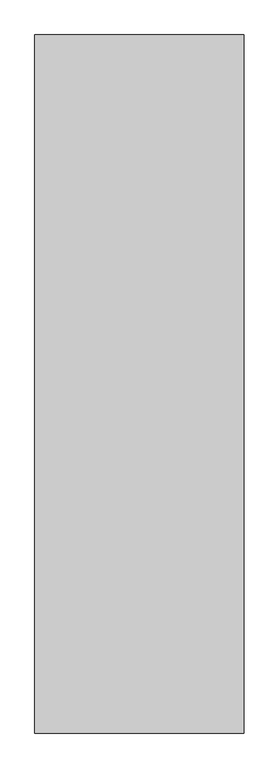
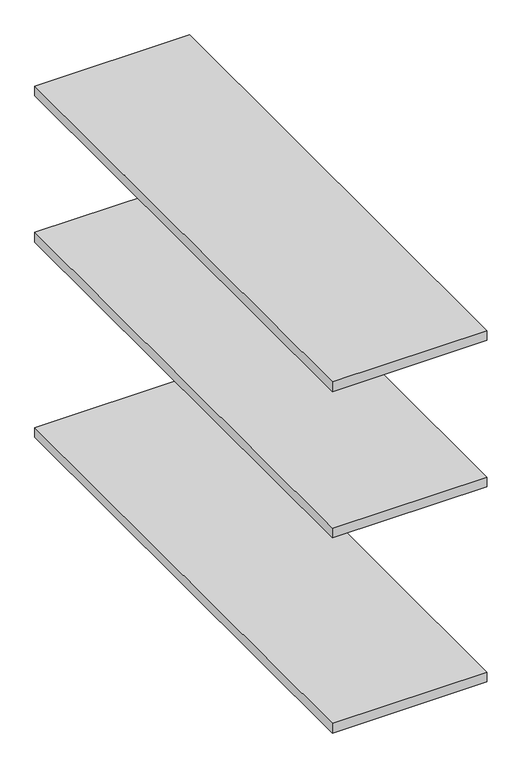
"""IFC4 building model written with IfcOpenShell, lengths in millimetres: proxy geometry, 香木隔板2 : 香木隔板2."""

from ifc_helpers import new_model, si_unit, frame, origin, place, context, project, spatial, polyline, outline, extrude, source, transform, mapped, element, save


def generic_models_bc6898c8(model_context):
    return source(origin(), model_context, "Body", "SweptSolid", [
        extrude(outline(polyline([(150.0, -500.0), (-150.0, -500.0), (-150.0, 500.0), (150.0, 500.0), (150.0, -500.0)])), frame((0.0, 0.0, 700.0), z_axis=(0.0, 0.0, 1.0), x_axis=(1.0, 0.0, 0.0)), (0.0, 0.0, 1.0), 20.0),
        extrude(outline(polyline([(150.0, -500.0), (-150.0, -500.0), (-150.0, 500.0), (150.0, 500.0), (150.0, -500.0)])), frame((0.0, 0.0, 1000.0), z_axis=(0.0, 0.0, 1.0), x_axis=(1.0, 0.0, 0.0)), (0.0, 0.0, 1.0), 20.0),
        extrude(outline(polyline([(150.0, -500.0), (-150.0, -500.0), (-150.0, 500.0), (150.0, 500.0), (150.0, -500.0)])), frame((0.0, 0.0, 300.0), z_axis=(0.0, 0.0, 1.0), x_axis=(1.0, 0.0, 0.0)), (0.0, 0.0, 1.0), 20.0),
    ])


if __name__ == "__main__":
    model = new_model("IFC4")
    model_context = context("Model", 3, world=origin())
    ifc_project = project(units=[si_unit("LENGTHUNIT", "METRE", prefix="MILLI")], contexts=[model_context])
    site = spatial("IfcSite", under=ifc_project)
    building = spatial("IfcBuilding", under=site)
    placement = place(None, origin())
    generic_models_shape = generic_models_bc6898c8(model_context)
    element("IfcBuildingElementProxy", 1, Name="香木隔板2 : 香木隔板2", ObjectType="香木隔板2 : 香木隔板2", at=placement, inside=building, context=model_context, shape_type="MappedRepresentation", body=[
        mapped(generic_models_shape, transform((0.0, 0.0, 0.0), x_axis=(1.0, 0.0, 0.0), y_axis=(0.0, 1.0, 0.0), z_axis=(0.0, 0.0, 1.0))),
    ])
    save(model, "model.ifc")
